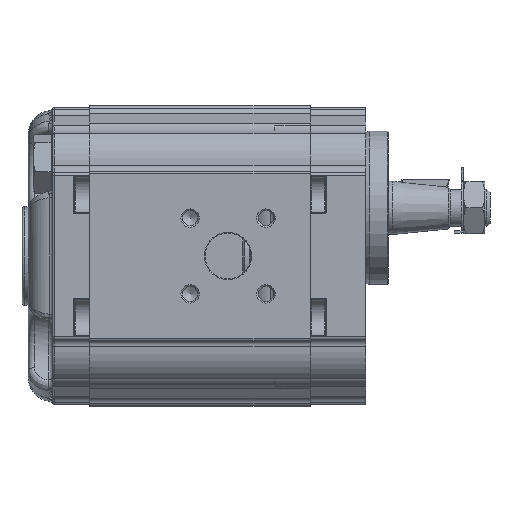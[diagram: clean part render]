
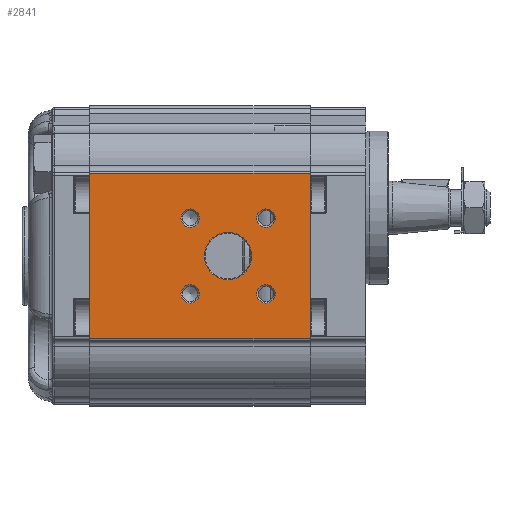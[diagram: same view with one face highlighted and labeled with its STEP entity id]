
A CAD part, left-side view. The second image highlights one B-rep face of the part: STEP entity #2841.
In plain terms, the highlighted planar face has unit normal (-1, 0, 0).
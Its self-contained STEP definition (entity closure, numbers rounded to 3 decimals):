
#2841 = ADVANCED_FACE( '', ( #6303, #6304, #6305, #6306, #6307, #6308 ), #6309, .T. );
#6303 = FACE_BOUND( '', #11909, .T. );
#6304 = FACE_BOUND( '', #11910, .T. );
#6305 = FACE_BOUND( '', #11911, .T. );
#6306 = FACE_BOUND( '', #11912, .T. );
#6307 = FACE_BOUND( '', #11913, .T. );
#6308 = FACE_OUTER_BOUND( '', #11914, .T. );
#6309 = PLANE( '', #11915 );
#11909 = EDGE_LOOP( '', ( #21423 ) );
#11910 = EDGE_LOOP( '', ( #21424 ) );
#11911 = EDGE_LOOP( '', ( #21425 ) );
#11912 = EDGE_LOOP( '', ( #21426 ) );
#11913 = EDGE_LOOP( '', ( #21427 ) );
#11914 = EDGE_LOOP( '', ( #21428, #21429, #21430, #21431 ) );
#11915 = AXIS2_PLACEMENT_3D( '', #21432, #21433, #21434 );
#21423 = ORIENTED_EDGE( '', *, *, #29310, .T. );
#21424 = ORIENTED_EDGE( '', *, *, #29311, .T. );
#21425 = ORIENTED_EDGE( '', *, *, #29312, .T. );
#21426 = ORIENTED_EDGE( '', *, *, #28568, .T. );
#21427 = ORIENTED_EDGE( '', *, *, #28943, .T. );
#21428 = ORIENTED_EDGE( '', *, *, #27984, .F. );
#21429 = ORIENTED_EDGE( '', *, *, #29313, .F. );
#21430 = ORIENTED_EDGE( '', *, *, #27922, .T. );
#21431 = ORIENTED_EDGE( '', *, *, #29314, .T. );
#21432 = CARTESIAN_POINT( '', ( -43., 72., 27.048 ) );
#21433 = DIRECTION( '', ( -1., 0., 0. ) );
#21434 = DIRECTION( '', ( 0., 0., 1. ) );
#27922 = EDGE_CURVE( '', #33700, #33698, #33701, .T. );
#27984 = EDGE_CURVE( '', #33793, #33795, #33796, .T. );
#28568 = EDGE_CURVE( '', #34675, #34675, #34676, .F. );
#28943 = EDGE_CURVE( '', #35178, #35178, #35179, .F. );
#29310 = EDGE_CURVE( '', #35637, #35637, #35638, .F. );
#29311 = EDGE_CURVE( '', #35639, #35639, #35640, .F. );
#29312 = EDGE_CURVE( '', #35641, #35641, #35642, .F. );
#29313 = EDGE_CURVE( '', #33700, #33793, #35643, .T. );
#29314 = EDGE_CURVE( '', #33698, #33795, #35644, .T. );
#33698 = VERTEX_POINT( '', #43261 );
#33700 = VERTEX_POINT( '', #43263 );
#33701 = LINE( '', #43264, #43265 );
#33793 = VERTEX_POINT( '', #43456 );
#33795 = VERTEX_POINT( '', #43458 );
#33796 = LINE( '', #43459, #43460 );
#34675 = VERTEX_POINT( '', #45448 );
#34676 = CIRCLE( '', #45449, 3. );
#35178 = VERTEX_POINT( '', #46542 );
#35179 = CIRCLE( '', #46543, 3. );
#35637 = VERTEX_POINT( '', #47667 );
#35638 = CIRCLE( '', #47668, 7.7 );
#35639 = VERTEX_POINT( '', #47669 );
#35640 = CIRCLE( '', #47670, 3. );
#35641 = VERTEX_POINT( '', #47671 );
#35642 = CIRCLE( '', #47672, 3. );
#35643 = LINE( '', #47673, #47674 );
#35644 = LINE( '', #47675, #47676 );
#43261 = CARTESIAN_POINT( '', ( -43., 72., -27.048 ) );
#43263 = CARTESIAN_POINT( '', ( -43., 72., 27.048 ) );
#43264 = CARTESIAN_POINT( '', ( -43., 72., 27.048 ) );
#43265 = VECTOR( '', #52208, 1000. );
#43456 = CARTESIAN_POINT( '', ( -43., 0., 27.048 ) );
#43458 = CARTESIAN_POINT( '', ( -43., 0., -27.048 ) );
#43459 = CARTESIAN_POINT( '', ( -43., 0., 27.048 ) );
#43460 = VECTOR( '', #52309, 1000. );
#45448 = CARTESIAN_POINT( '', ( -43., 14.426, 15.374 ) );
#45449 = AXIS2_PLACEMENT_3D( '', #53024, #53025, #53026 );
#46542 = CARTESIAN_POINT( '', ( -43., 14.426, -9.374 ) );
#46543 = AXIS2_PLACEMENT_3D( '', #53426, #53427, #53428 );
#47667 = CARTESIAN_POINT( '', ( -43., 26.8, 7.7 ) );
#47668 = AXIS2_PLACEMENT_3D( '', #53831, #53832, #53833 );
#47669 = CARTESIAN_POINT( '', ( -43., 39.174, -9.374 ) );
#47670 = AXIS2_PLACEMENT_3D( '', #53834, #53835, #53836 );
#47671 = CARTESIAN_POINT( '', ( -43., 39.174, 15.374 ) );
#47672 = AXIS2_PLACEMENT_3D( '', #53837, #53838, #53839 );
#47673 = CARTESIAN_POINT( '', ( -43., 72., 27.048 ) );
#47674 = VECTOR( '', #53840, 1000. );
#47675 = CARTESIAN_POINT( '', ( -43., 72., -27.048 ) );
#47676 = VECTOR( '', #53841, 1000. );
#52208 = DIRECTION( '', ( 0., 0., -1. ) );
#52309 = DIRECTION( '', ( 0., 0., -1. ) );
#53024 = CARTESIAN_POINT( '', ( -43., 14.426, 12.374 ) );
#53025 = DIRECTION( '', ( -1., 0., 0. ) );
#53026 = DIRECTION( '', ( 0., 0., 1. ) );
#53426 = CARTESIAN_POINT( '', ( -43., 14.426, -12.374 ) );
#53427 = DIRECTION( '', ( -1., 0., 0. ) );
#53428 = DIRECTION( '', ( 0., 0., 1. ) );
#53831 = CARTESIAN_POINT( '', ( -43., 26.8, 0. ) );
#53832 = DIRECTION( '', ( -1., 0., 0. ) );
#53833 = DIRECTION( '', ( 0., 0., 1. ) );
#53834 = CARTESIAN_POINT( '', ( -43., 39.174, -12.374 ) );
#53835 = DIRECTION( '', ( -1., 0., 0. ) );
#53836 = DIRECTION( '', ( 0., 0., 1. ) );
#53837 = CARTESIAN_POINT( '', ( -43., 39.174, 12.374 ) );
#53838 = DIRECTION( '', ( -1., 0., 0. ) );
#53839 = DIRECTION( '', ( 0., 0., 1. ) );
#53840 = DIRECTION( '', ( 0., -1., 0. ) );
#53841 = DIRECTION( '', ( 0., -1., 0. ) );
